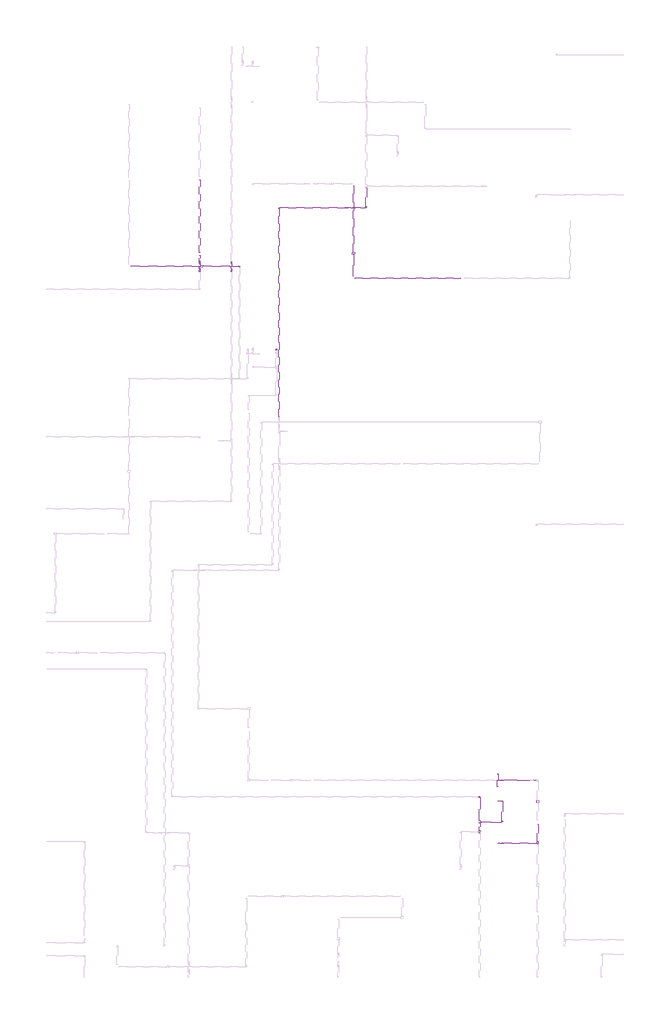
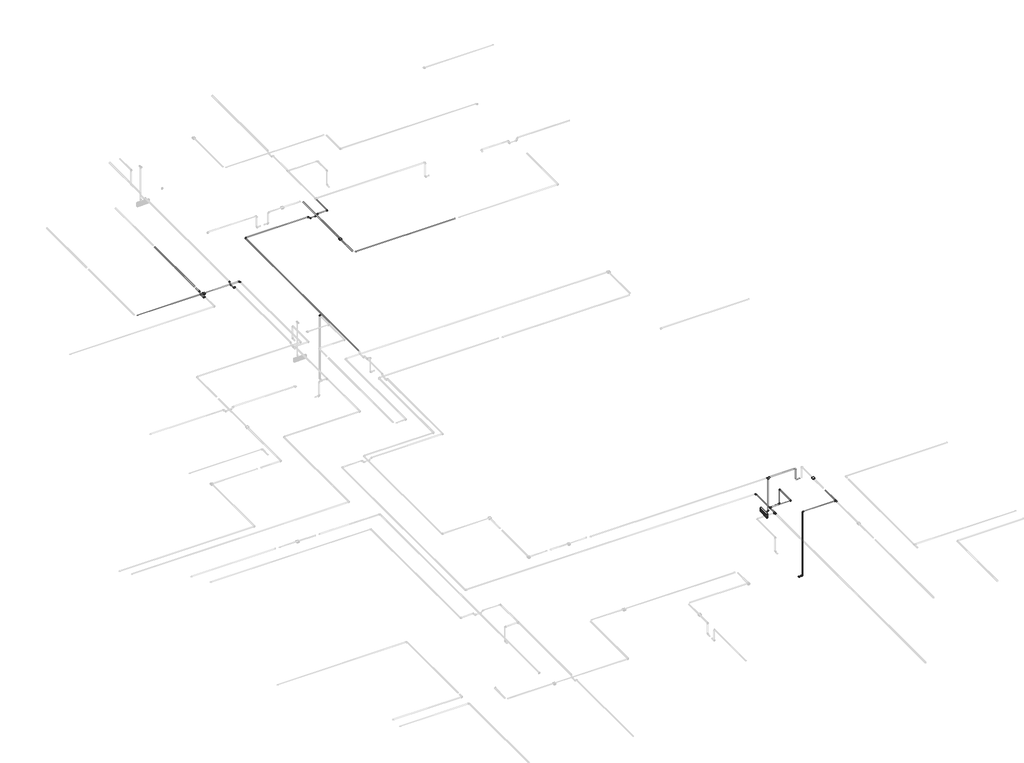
# One storey, part 35 of 40: 35 cable carrier segments, 27 cable carrier fittings, 4 alarms.
"""IFC4 building model written with IfcOpenShell, lengths in millimetres."""

from ifc_helpers import new_model, si_unit, point, frame, frame_2d, origin, place, context, project, spatial, circle_curve, trimmed, segment, composite_curve, outline, extrude, transform, mapped, element, save
from ifc_brep_helpers import plane_surface, cylinder_surface, advanced_brep
from components import alarm_4b7e8fd8, alarm_a2247946, cable_carrier_fitting_69f1a801, cable_carrier_fitting_8122f9af, cable_carrier_fitting_8fd13dfc

model = new_model("IFC4")

# Units and contexts
model_context = context("Model", 3, world=origin())
ifc_project = project(units=[si_unit("LENGTHUNIT", "METRE", prefix="MILLI")], contexts=[model_context])

# Site, building, storey
site = spatial("IfcSite", under=ifc_project)
building = spatial("IfcBuilding", under=site)
storey = spatial("IfcBuildingStorey", under=building, Name="1 этаж", Elevation=0.0)

# Alarms
placement = place(None, origin())
alarm_shape = alarm_4b7e8fd8(model_context)
element("IfcAlarm", 1, ObjectType="RBZ_Оповещатель_Световой_Рубеж_ОПОП1-R3(грань) : ОПОП 1-R3 \"Выход\"", at=placement, inside=storey, context=model_context, shape_type="MappedRepresentation", body=[
    mapped(alarm_shape, transform((16457.6759979, 1945.4117677, 2300.0), x_axis=(0.0, -1.0, 0.0), y_axis=(0.0, 0.0, 1.0), z_axis=(-1.0, 0.0, 0.0))),
])
alarm_2_shape = alarm_a2247946(model_context)
element("IfcAlarm", 2, ObjectType="RBZ_ИзоляторШлейфа_Рубеж_ИЗ-1_прот.R3(плоскость) : ИЗ-1 прот.R3", at=placement, inside=storey, context=model_context, shape_type="MappedRepresentation", body=[
    mapped(alarm_2_shape, transform((9427.6759979, 14124.6370105, 3200.0496955), x_axis=(1.0, 0.0, 0.0), y_axis=(0.0, 1.0, 0.0), z_axis=(0.0, 0.0, 1.0))),
])
element("IfcAlarm", 3, ObjectType="RBZ_ИзоляторШлейфа_Рубеж_ИЗ-1_прот.R3(плоскость) : ИЗ-1 прот.R3", at=placement, inside=storey, context=model_context, shape_type="MappedRepresentation", body=[
    mapped(alarm_2_shape, transform((13027.6759979, 14434.6370105, 3200.05), x_axis=(1.0, 0.0, 0.0), y_axis=(0.0, 1.0, 0.0), z_axis=(0.0, 0.0, 1.0))),
])
element("IfcAlarm", 4, ObjectType="RBZ_ИзоляторШлейфа_Рубеж_ИЗ-1_прот.R3(плоскость) : ИЗ-1 прот.R3", at=placement, inside=storey, context=model_context, shape_type="MappedRepresentation", body=[
    mapped(alarm_2_shape, transform((17393.7902226, 1444.6370105, 3200.7813446), x_axis=(1.0, 0.0, 0.0), y_axis=(0.0, 1.0, 0.0), z_axis=(0.0, 0.0, 1.0))),
])

# Cable carrier fittings
cable_carrier_fitting_shape = cable_carrier_fitting_69f1a801(model_context)
element("IfcCableCarrierFitting", 5, ObjectType="ADSK_Поворот_Минимальный размер : Неспецифицируемый", at=placement, inside=storey, context=model_context, shape_type="MappedRepresentation", body=[
    mapped(cable_carrier_fitting_shape, transform((10327.6759979, 14124.6370105, 3189.2996955), x_axis=(0.0, 1.0, 0.0), y_axis=(-1.0, 0.0, 0.0), z_axis=(0.0, 0.0, 1.0))),
])
element("IfcCableCarrierFitting", 6, ObjectType="ADSK_Поворот_Минимальный размер : Неспецифицируемый", at=placement, inside=storey, context=model_context, shape_type="MappedRepresentation", body=[
    mapped(cable_carrier_fitting_shape, transform((16022.6759979, 1554.6370105, 3180.0), x_axis=(0.0, 1.0, 0.0), y_axis=(-1.0, 0.0, 0.0), z_axis=(0.0, 0.0, 1.0))),
])
element("IfcCableCarrierFitting", 7, ObjectType="ADSK_Поворот_Минимальный размер : Неспецифицируемый", at=placement, inside=storey, context=model_context, shape_type="MappedRepresentation", body=[
    mapped(cable_carrier_fitting_shape, transform((16554.8758035, 1454.6370105, 2797.4861504), x_axis=(1.0, 0.0, 0.0), y_axis=(0.0, 0.0, 1.0), z_axis=(0.0, -1.0, 0.0))),
])
element("IfcCableCarrierFitting", 8, ObjectType="ADSK_Поворот_Минимальный размер : Неспецифицируемый", at=placement, inside=storey, context=model_context, shape_type="MappedRepresentation", body=[
    mapped(cable_carrier_fitting_shape, transform((16554.8758035, 1454.6370105, 3180.0), x_axis=(0.0, 0.0, 1.0), y_axis=(0.0, -1.0, 0.0), z_axis=(1.0, 0.0, 0.0))),
])
element("IfcCableCarrierFitting", 9, ObjectType="ADSK_Поворот_Минимальный размер : Неспецифицируемый", at=placement, inside=storey, context=model_context, shape_type="MappedRepresentation", body=[
    mapped(cable_carrier_fitting_shape, transform((16554.8758035, 954.6370105, 3180.0), x_axis=(1.0, 0.0, 0.0), y_axis=(0.0, 1.0, 0.0), z_axis=(0.0, 0.0, 1.0))),
])
element("IfcCableCarrierFitting", 10, ObjectType="ADSK_Поворот_Минимальный размер : Неспецифицируемый", at=placement, inside=storey, context=model_context, shape_type="MappedRepresentation", body=[
    mapped(cable_carrier_fitting_shape, transform((11197.6759979, 12161.8368161, 3189.3), x_axis=(0.0, 0.0, 1.0), y_axis=(0.0, -1.0, 0.0), z_axis=(1.0, 0.0, 0.0))),
])
element("IfcCableCarrierFitting", 11, ObjectType="ADSK_Поворот_Минимальный размер : Неспецифицируемый", at=placement, inside=storey, context=model_context, shape_type="MappedRepresentation", body=[
    mapped(cable_carrier_fitting_shape, transform((16554.8758035, 1945.4117677, 2300.0), x_axis=(1.0, 0.0, 0.0), y_axis=(0.0, 0.0, 1.0), z_axis=(0.0, -1.0, 0.0))),
])
element("IfcCableCarrierFitting", 12, ObjectType="ADSK_Поворот_Минимальный размер : Неспецифицируемый", at=placement, inside=storey, context=model_context, shape_type="MappedRepresentation", body=[
    mapped(cable_carrier_fitting_shape, transform((16554.8758035, 454.6370105, 1500.0), x_axis=(1.0, 0.0, 0.0), y_axis=(0.0, 0.0, 1.0), z_axis=(0.0, -1.0, 0.0))),
])
element("IfcCableCarrierFitting", 13, ObjectType="ADSK_Поворот_Минимальный размер : Неспецифицируемый", at=placement, inside=storey, context=model_context, shape_type="MappedRepresentation", body=[
    mapped(cable_carrier_fitting_shape, transform((16554.8758035, 454.6370182, 3190.0009194), x_axis=(0.0, 0.0, 1.0), y_axis=(1.0, 0.0, 0.0), z_axis=(0.0, 1.0, 0.0))),
])
element("IfcCableCarrierFitting", 14, ObjectType="ADSK_Поворот_Минимальный размер : Неспецифицируемый", at=placement, inside=storey, context=model_context, shape_type="MappedRepresentation", body=[
    mapped(cable_carrier_fitting_shape, transform((11261.1110267, 15511.3898495, 3180.0), x_axis=(-1.0, 0.0, 0.0), y_axis=(0.0, -1.0, 0.0), z_axis=(0.0, 0.0, 1.0))),
])
element("IfcCableCarrierFitting", 15, ObjectType="ADSK_Поворот_Минимальный размер : Неспецифицируемый", at=placement, inside=storey, context=model_context, shape_type="MappedRepresentation", body=[
    mapped(cable_carrier_fitting_shape, transform((13329.9487472, 15511.3898495, 3180.0), x_axis=(1.0, 0.0, 0.0), y_axis=(0.0, 1.0, 0.0), z_axis=(0.0, 0.0, 1.0))),
])
cable_carrier_fitting_2_shape = cable_carrier_fitting_8122f9af(model_context)
element("IfcCableCarrierFitting", 16, ObjectType="ADSK_Поворот_Минимальный размер : Неспецифицируемый", at=placement, inside=storey, context=model_context, shape_type="MappedRepresentation", body=[
    mapped(cable_carrier_fitting_2_shape, transform((10136.5137184, 14058.0647393, 3130.0), x_axis=(0.0, 0.7071067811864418, -0.7071067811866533), y_axis=(0.0, 0.7071067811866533, 0.7071067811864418), z_axis=(1.0, 0.0, 0.0))),
])
element("IfcCableCarrierFitting", 17, ObjectType="ADSK_Поворот_Минимальный размер : Неспецифицируемый", at=placement, inside=storey, context=model_context, shape_type="MappedRepresentation", body=[
    mapped(cable_carrier_fitting_2_shape, transform((10136.5137184, 14191.2092818, 3130.0), x_axis=(0.0, 1.0, 0.0), y_axis=(0.0, 0.0, 1.0), z_axis=(1.0, 0.0, 0.0))),
])
element("IfcCableCarrierFitting", 18, ObjectType="ADSK_Поворот_Минимальный размер : Неспецифицируемый", at=placement, inside=storey, context=model_context, shape_type="MappedRepresentation", body=[
    mapped(cable_carrier_fitting_2_shape, transform((10136.5137184, 14241.2092818, 3180.0), x_axis=(0.0, 0.7071067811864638, 0.7071067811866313), y_axis=(0.0, 0.7071067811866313, -0.7071067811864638), z_axis=(-1.0, 0.0, 0.0))),
])
element("IfcCableCarrierFitting", 19, ObjectType="ADSK_Поворот_Минимальный размер : Неспецифицируемый", at=placement, inside=storey, context=model_context, shape_type="MappedRepresentation", body=[
    mapped(cable_carrier_fitting_2_shape, transform((12894.3269109, 15511.3898495, 3130.0), x_axis=(-1.0, 0.0, 0.0), y_axis=(0.0, 0.0, 1.0), z_axis=(0.0, 1.0, 0.0))),
])
element("IfcCableCarrierFitting", 20, ObjectType="ADSK_Поворот_Минимальный размер : Неспецифицируемый", at=placement, inside=storey, context=model_context, shape_type="MappedRepresentation", body=[
    mapped(cable_carrier_fitting_2_shape, transform((12844.3269109, 15511.3898495, 3180.0), x_axis=(-0.7071067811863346, 0.0, 0.7071067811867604), y_axis=(-0.7071067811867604, 0.0, -0.7071067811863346), z_axis=(0.0, -1.0, 0.0))),
])
element("IfcCableCarrierFitting", 21, ObjectType="ADSK_Поворот_Минимальный размер : Неспецифицируемый", at=placement, inside=storey, context=model_context, shape_type="MappedRepresentation", body=[
    mapped(cable_carrier_fitting_2_shape, transform((9382.6759979, 14058.0647393, 3137.0), x_axis=(0.0, 0.7071067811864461, -0.7071067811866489), y_axis=(0.0, 0.7071067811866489, 0.7071067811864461), z_axis=(1.0, 0.0, 0.0))),
])
element("IfcCableCarrierFitting", 22, ObjectType="ADSK_Поворот_Минимальный размер : Неспецифицируемый", at=placement, inside=storey, context=model_context, shape_type="MappedRepresentation", body=[
    mapped(cable_carrier_fitting_2_shape, transform((9382.6759979, 14191.2092818, 3137.0), x_axis=(0.0, 1.0, 0.0), y_axis=(0.0, 0.0, 1.0), z_axis=(1.0, 0.0, 0.0))),
])
element("IfcCableCarrierFitting", 23, ObjectType="ADSK_Поворот_Минимальный размер : Неспецифицируемый", at=placement, inside=storey, context=model_context, shape_type="MappedRepresentation", body=[
    mapped(cable_carrier_fitting_2_shape, transform((9382.6759979, 14241.2092818, 3187.0), x_axis=(0.0, 0.7071067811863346, 0.7071067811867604), y_axis=(0.0, 0.7071067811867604, -0.7071067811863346), z_axis=(-1.0, 0.0, 0.0))),
])
element("IfcCableCarrierFitting", 24, ObjectType="ADSK_Поворот_Минимальный размер : Неспецифицируемый", at=placement, inside=storey, context=model_context, shape_type="MappedRepresentation", body=[
    mapped(cable_carrier_fitting_2_shape, transform((9382.6759979, 14008.0647393, 3187.0), x_axis=(0.0, -0.7071067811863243, 0.7071067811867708), y_axis=(0.0, -0.7071067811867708, -0.7071067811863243), z_axis=(1.0, 0.0, 0.0))),
])
element("IfcCableCarrierFitting", 25, ObjectType="ADSK_Поворот_Минимальный размер : Неспецифицируемый", at=placement, inside=storey, context=model_context, shape_type="MappedRepresentation", body=[
    mapped(cable_carrier_fitting_2_shape, transform((10136.5137184, 14008.0647393, 3180.0), x_axis=(0.0, -0.7071067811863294, 0.7071067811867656), y_axis=(0.0, -0.7071067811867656, -0.7071067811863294), z_axis=(1.0, 0.0, 0.0))),
])
element("IfcCableCarrierFitting", 26, ObjectType="ADSK_Поворот_Минимальный размер : Неспецифицируемый", at=placement, inside=storey, context=model_context, shape_type="MappedRepresentation", body=[
    mapped(cable_carrier_fitting_2_shape, transform((13027.4714534, 15511.3898495, 3130.0), x_axis=(1.0, 0.0, 0.0), y_axis=(0.0, 0.0, 1.0), z_axis=(0.0, -1.0, 0.0))),
])
element("IfcCableCarrierFitting", 27, ObjectType="ADSK_Поворот_Минимальный размер : Неспецифицируемый", at=placement, inside=storey, context=model_context, shape_type="MappedRepresentation", body=[
    mapped(cable_carrier_fitting_2_shape, transform((13077.4714534, 15511.3898495, 3180.0), x_axis=(0.7071067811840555, 0.0, 0.7071067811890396), y_axis=(0.7071067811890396, 0.0, -0.7071067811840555), z_axis=(0.0, 1.0, 0.0))),
])
cable_carrier_fitting_3_shape = cable_carrier_fitting_8fd13dfc(model_context)
element("IfcCableCarrierFitting", 28, ObjectType="ADSK_Тройник : ПВХ", at=placement, inside=storey, context=model_context, shape_type="MappedRepresentation", body=[
    mapped(cable_carrier_fitting_3_shape, transform((17393.7902226, 454.6370105, 3190.0154323), x_axis=(0.0, -0.9999998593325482, -0.0005304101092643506), y_axis=(0.9999998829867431, -2.5659270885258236e-07, 0.0004837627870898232), z_axis=(-0.00048376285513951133, -0.0005304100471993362, 0.9999997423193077))),
])
element("IfcCableCarrierFitting", 29, ObjectType="ADSK_Тройник : ПВХ", at=placement, inside=storey, context=model_context, shape_type="MappedRepresentation", body=[
    mapped(cable_carrier_fitting_3_shape, transform((16022.6759979, 724.6370105, 3180.0), x_axis=(0.0, -1.0, 0.0), y_axis=(1.0, 0.0, 0.0), z_axis=(0.0, 0.0, 1.0))),
])
element("IfcCableCarrierFitting", 30, ObjectType="ADSK_Тройник : ПВХ", at=placement, inside=storey, context=model_context, shape_type="MappedRepresentation", body=[
    mapped(cable_carrier_fitting_3_shape, transform((16022.6759979, 954.6370105, 3180.0), x_axis=(0.0, 1.0, 0.0), y_axis=(-1.0, 0.0, 0.0), z_axis=(0.0, 0.0, 1.0))),
])
element("IfcCableCarrierFitting", 31, ObjectType="ADSK_Тройник : ПВХ", at=placement, inside=storey, context=model_context, shape_type="MappedRepresentation", body=[
    mapped(cable_carrier_fitting_3_shape, transform((16554.8758035, 1945.4117677, 3189.3), x_axis=(-1.0, 0.0, 0.0), y_axis=(0.0, 0.0, 1.0), z_axis=(0.0, 1.0, 0.0))),
])

# Cable carrier segments
element("IfcCableCarrierSegment", 32, ObjectType="Гофрированная труба", at=placement, inside=storey, context=model_context, shape_type="SweptSolid", body=[
    extrude(outline(composite_curve([segment(trimmed(circle_curve(frame_2d((3190.0313446, 17393.7902226)), 10.0), [point((3190.0361822, 17403.7902215))], [point((3200.0313434, 17393.785385))], False, "CARTESIAN"), True, "CONTINUOUS"), segment(trimmed(circle_curve(frame_2d((3190.0313446, 17393.7902226)), 10.0), [point((3200.0313434, 17393.785385))], [point((3190.026507, 17383.7902238))], False, "CARTESIAN"), True, "CONTINUOUS"), segment(trimmed(circle_curve(frame_2d((3190.0313446, 17393.7902226)), 10.0), [point((3190.026507, 17383.7902238))], [point((3180.0313458, 17393.7950603))], False, "CARTESIAN"), True, "CONTINUOUS"), segment(trimmed(circle_curve(frame_2d((3190.0313446, 17393.7902226)), 10.0), [point((3180.0313458, 17393.7950603))], [point((3190.0361822, 17403.7902215))], False, "CARTESIAN"), True, "CONTINUOUS")], self_intersect=False)), frame((0.0, 484.6370063, 0.0), z_axis=(0.0, 1.0, 0.0), x_axis=(0.0, 0.0, 1.0)), (0.0, 0.0, 1.0), 420.0000042),
])
element("IfcCableCarrierSegment", 33, ObjectType="Гофрированная труба", at=placement, inside=storey, context=model_context, shape_type="SweptSolid", body=[
    extrude(outline(composite_curve([segment(trimmed(circle_curve(frame_2d((3189.3, 13027.6759979)), 10.0), [point((3189.3, 13037.6759979))], [point((3199.3, 13027.6759979))], False, "CARTESIAN"), True, "CONTINUOUS"), segment(trimmed(circle_curve(frame_2d((3189.3, 13027.6759979)), 10.0), [point((3199.3, 13027.6759979))], [point((3189.3, 13017.6759979))], False, "CARTESIAN"), True, "CONTINUOUS"), segment(trimmed(circle_curve(frame_2d((3189.3, 13027.6759979)), 10.0), [point((3189.3, 13017.6759979))], [point((3179.3, 13027.6759979))], False, "CARTESIAN"), True, "CONTINUOUS"), segment(trimmed(circle_curve(frame_2d((3189.3, 13027.6759979)), 10.0), [point((3179.3, 13027.6759979))], [point((3189.3, 13037.6759979))], False, "CARTESIAN"), True, "CONTINUOUS")], self_intersect=False)), frame((0.0, 13891.1370105, 0.0), z_axis=(0.0, 1.0, 0.0), x_axis=(0.0, 0.0, 1.0)), (0.0, 0.0, 1.0), 517.5),
])
element("IfcCableCarrierSegment", 34, ObjectType="Гофрированная труба", at=placement, inside=storey, context=model_context, shape_type="SweptSolid", body=[
    extrude(outline(composite_curve([segment(trimmed(circle_curve(frame_2d((14124.6370105, 3189.2996955)), 10.0), [point((14134.6370105, 3189.2996955))], [point((14124.6370105, 3179.2996955))], False, "CARTESIAN"), True, "CONTINUOUS"), segment(trimmed(circle_curve(frame_2d((14124.6370105, 3189.2996955)), 10.0), [point((14124.6370105, 3179.2996955))], [point((14114.6370105, 3189.2996955))], False, "CARTESIAN"), True, "CONTINUOUS"), segment(trimmed(circle_curve(frame_2d((14124.6370105, 3189.2996955)), 10.0), [point((14114.6370105, 3189.2996955))], [point((14124.6370105, 3199.2996955))], False, "CARTESIAN"), True, "CONTINUOUS"), segment(trimmed(circle_curve(frame_2d((14124.6370105, 3189.2996955)), 10.0), [point((14124.6370105, 3199.2996955))], [point((14134.6370105, 3189.2996955))], False, "CARTESIAN"), True, "CONTINUOUS")], self_intersect=False)), frame((7754.1757766, 0.0, 0.0), z_axis=(1.0, 0.0, 0.0), x_axis=(0.0, 1.0, 0.0)), (0.0, 0.0, 1.0), 1647.5002213),
])
element("IfcCableCarrierSegment", 35, ObjectType="Гофрированная труба", at=placement, inside=storey, context=model_context, shape_type="SweptSolid", body=[
    extrude(outline(composite_curve([segment(trimmed(circle_curve(frame_2d((14124.6370105, 3189.2996955)), 10.0), [point((14114.6370105, 3189.2996955))], [point((14124.6370105, 3199.2996955))], False, "CARTESIAN"), True, "CONTINUOUS"), segment(trimmed(circle_curve(frame_2d((14124.6370105, 3189.2996955)), 10.0), [point((14124.6370105, 3199.2996955))], [point((14134.6370105, 3189.2996955))], False, "CARTESIAN"), True, "CONTINUOUS"), segment(trimmed(circle_curve(frame_2d((14124.6370105, 3189.2996955)), 10.0), [point((14134.6370105, 3189.2996955))], [point((14124.6370105, 3179.2996955))], False, "CARTESIAN"), True, "CONTINUOUS"), segment(trimmed(circle_curve(frame_2d((14124.6370105, 3189.2996955)), 10.0), [point((14124.6370105, 3179.2996955))], [point((14114.6370105, 3189.2996955))], False, "CARTESIAN"), True, "CONTINUOUS")], self_intersect=False)), frame((9453.6759979, 0.0, 0.0), z_axis=(1.0, 0.0, 0.0), x_axis=(0.0, 1.0, 0.0)), (0.0, 0.0, 1.0), 853.0),
])
element("IfcCableCarrierSegment", 36, ObjectType="Гофрированная труба", at=placement, inside=storey, context=model_context, shape_type="SweptSolid", body=[
    extrude(outline(composite_curve([segment(trimmed(circle_curve(frame_2d((1945.4117677, 2891.5753772)), 10.0), [point((1955.4117677, 2891.5753772))], [point((1945.4117677, 2881.5753772))], False, "CARTESIAN"), True, "CONTINUOUS"), segment(trimmed(circle_curve(frame_2d((1945.4117677, 2891.5753772)), 10.0), [point((1945.4117677, 2881.5753772))], [point((1935.4117677, 2891.5753772))], False, "CARTESIAN"), True, "CONTINUOUS"), segment(trimmed(circle_curve(frame_2d((1945.4117677, 2891.5753772)), 10.0), [point((1935.4117677, 2891.5753772))], [point((1945.4117677, 2901.5753772))], False, "CARTESIAN"), True, "CONTINUOUS"), segment(trimmed(circle_curve(frame_2d((1945.4117677, 2891.5753772)), 10.0), [point((1945.4117677, 2901.5753772))], [point((1955.4117677, 2891.5753772))], False, "CARTESIAN"), True, "CONTINUOUS")], self_intersect=False)), frame((17271.090417, 0.0, 0.0), z_axis=(1.0, 0.0, 0.0), x_axis=(0.0, 1.0, 0.0)), (0.0, 0.0, 1.0), 76.1998056),
])
element("IfcCableCarrierSegment", 37, ObjectType="Гофрированная труба", at=placement, inside=storey, context=model_context, shape_type="SweptSolid", body=[
    extrude(outline(composite_curve([segment(trimmed(circle_curve(frame_2d((17250.090417, 1945.4117677)), 10.0), [point((17240.090417, 1945.4117677))], [point((17250.090417, 1955.4117677))], False, "CARTESIAN"), True, "CONTINUOUS"), segment(trimmed(circle_curve(frame_2d((17250.090417, 1945.4117677)), 10.0), [point((17250.090417, 1955.4117677))], [point((17260.090417, 1945.4117677))], False, "CARTESIAN"), True, "CONTINUOUS"), segment(trimmed(circle_curve(frame_2d((17250.090417, 1945.4117677)), 10.0), [point((17260.090417, 1945.4117677))], [point((17250.090417, 1935.4117677))], False, "CARTESIAN"), True, "CONTINUOUS"), segment(trimmed(circle_curve(frame_2d((17250.090417, 1945.4117677)), 10.0), [point((17250.090417, 1935.4117677))], [point((17240.090417, 1945.4117677))], False, "CARTESIAN"), True, "CONTINUOUS")], self_intersect=False)), frame((0.0, 0.0, 2912.5753772), z_axis=(0.0, 0.0, 1.0), x_axis=(1.0, 0.0, 0.0)), (0.0, 0.0, 1.0), 255.7246228),
])
element("IfcCableCarrierSegment", 38, ObjectType="Гофрированная труба", at=placement, inside=storey, context=model_context, shape_type="SweptSolid", body=[
    extrude(outline(composite_curve([segment(trimmed(circle_curve(frame_2d((3189.3, 13027.6759979)), 10.0), [point((3189.3, 13017.6759979))], [point((3179.3, 13027.6759979))], False, "CARTESIAN"), True, "CONTINUOUS"), segment(trimmed(circle_curve(frame_2d((3189.3, 13027.6759979)), 10.0), [point((3179.3, 13027.6759979))], [point((3189.3, 13037.6759979))], False, "CARTESIAN"), True, "CONTINUOUS"), segment(trimmed(circle_curve(frame_2d((3189.3, 13027.6759979)), 10.0), [point((3189.3, 13037.6759979))], [point((3199.3, 13027.6759979))], False, "CARTESIAN"), True, "CONTINUOUS"), segment(trimmed(circle_curve(frame_2d((3189.3, 13027.6759979)), 10.0), [point((3199.3, 13027.6759979))], [point((3189.3, 13017.6759979))], False, "CARTESIAN"), True, "CONTINUOUS")], self_intersect=False)), frame((0.0, 14460.6370105, 0.0), z_axis=(0.0, 1.0, 0.0), x_axis=(0.0, 0.0, 1.0)), (0.0, 0.0, 1.0), 1577.5),
])
element("IfcCableCarrierSegment", 39, ObjectType="Гофрированная труба", at=placement, inside=storey, context=model_context, shape_type="SweptSolid", body=[
    extrude(outline(composite_curve([segment(trimmed(circle_curve(frame_2d((0.0, 10.0)), 10.0), [point((-10.0, 10.0))], [point((0.0, 20.0))], False, "CARTESIAN"), True, "CONTINUOUS"), segment(trimmed(circle_curve(frame_2d((0.0, 10.0)), 10.0), [point((0.0, 20.0))], [point((10.0, 10.0))], False, "CARTESIAN"), True, "CONTINUOUS"), segment(trimmed(circle_curve(frame_2d((0.0, 10.0)), 10.0), [point((10.0, 10.0))], [point((0.0, 0.0))], False, "CARTESIAN"), True, "CONTINUOUS"), segment(trimmed(circle_curve(frame_2d((0.0, 10.0)), 10.0), [point((0.0, 0.0))], [point((-10.0, 10.0))], False, "CARTESIAN"), True, "CONTINUOUS")], self_intersect=False)), frame((15570.9300906, 13844.6370105, 3179.275652), z_axis=(-0.9999999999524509, 0.0, 9.751842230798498e-06), x_axis=(0.0, -1.0, 0.0)), (0.0, 0.0, 1.0), 2496.7541904),
])
element("IfcCableCarrierSegment", 40, ObjectType="Гофрированная труба", at=placement, inside=storey, context=model_context, shape_type="SweptSolid", body=[
    extrude(outline(composite_curve([segment(trimmed(circle_curve(frame_2d((3187.0, 9382.6759979)), 10.0), [point((3187.0, 9392.6759979))], [point((3197.0, 9382.6759979))], False, "CARTESIAN"), True, "CONTINUOUS"), segment(trimmed(circle_curve(frame_2d((3187.0, 9382.6759979)), 10.0), [point((3197.0, 9382.6759979))], [point((3187.0, 9372.6759979))], False, "CARTESIAN"), True, "CONTINUOUS"), segment(trimmed(circle_curve(frame_2d((3187.0, 9382.6759979)), 10.0), [point((3187.0, 9372.6759979))], [point((3177.0, 9382.6759979))], False, "CARTESIAN"), True, "CONTINUOUS"), segment(trimmed(circle_curve(frame_2d((3187.0, 9382.6759979)), 10.0), [point((3177.0, 9382.6759979))], [point((3187.0, 9392.6759979))], False, "CARTESIAN"), True, "CONTINUOUS")], self_intersect=False)), frame((0.0, 14447.0987933, 0.0), z_axis=(0.0, 1.0, 0.0), x_axis=(0.0, 0.0, 1.0)), (0.0, 0.0, 1.0), 1735.0382172),
])
element("IfcCableCarrierSegment", 41, ObjectType="Гофрированная труба", at=placement, inside=storey, context=model_context, shape_type="SweptSolid", body=[
    extrude(outline(composite_curve([segment(trimmed(circle_curve(frame_2d((0.0, 10.0)), 10.0), [point((0.0, 20.0))], [point((10.0, 10.0))], False, "CARTESIAN"), True, "CONTINUOUS"), segment(trimmed(circle_curve(frame_2d((0.0, 10.0)), 10.0), [point((10.0, 10.0))], [point((0.0, 0.0))], False, "CARTESIAN"), True, "CONTINUOUS"), segment(trimmed(circle_curve(frame_2d((0.0, 10.0)), 10.0), [point((0.0, 0.0))], [point((-10.0, 10.0))], False, "CARTESIAN"), True, "CONTINUOUS"), segment(trimmed(circle_curve(frame_2d((0.0, 10.0)), 10.0), [point((-10.0, 10.0))], [point((0.0, 20.0))], False, "CARTESIAN"), True, "CONTINUOUS")], self_intersect=False)), frame((13319.9487472, 15532.3898495, 3180.0), z_axis=(1.8408741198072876e-12, 1.0, 0.0), x_axis=(0.0, 0.0, 1.0)), (0.0, 0.0, 1.0), 462.247161),
])
element("IfcCableCarrierSegment", 42, ObjectType="Гофрированная труба", at=placement, inside=storey, context=model_context, shape_type="SweptSolid", body=[
    extrude(outline(composite_curve([segment(trimmed(circle_curve(frame_2d((15511.3898495, 3130.0)), 10.0), [point((15521.3898495, 3130.0))], [point((15511.3898495, 3120.0))], False, "CARTESIAN"), True, "CONTINUOUS"), segment(trimmed(circle_curve(frame_2d((15511.3898495, 3130.0)), 10.0), [point((15511.3898495, 3120.0))], [point((15501.3898495, 3130.0))], False, "CARTESIAN"), True, "CONTINUOUS"), segment(trimmed(circle_curve(frame_2d((15511.3898495, 3130.0)), 10.0), [point((15501.3898495, 3130.0))], [point((15511.3898495, 3140.0))], False, "CARTESIAN"), True, "CONTINUOUS"), segment(trimmed(circle_curve(frame_2d((15511.3898495, 3130.0)), 10.0), [point((15511.3898495, 3140.0))], [point((15521.3898495, 3130.0))], False, "CARTESIAN"), True, "CONTINUOUS")], self_intersect=False)), frame((12903.6111821, 0.0, 0.0), z_axis=(1.0, 0.0, 0.0), x_axis=(0.0, 1.0, 0.0)), (0.0, 0.0, 1.0), 114.576),
])
element("IfcCableCarrierSegment", 43, ObjectType="Гофрированная труба", at=placement, inside=storey, context=model_context, shape_type="SweptSolid", body=[
    extrude(outline(composite_curve([segment(trimmed(circle_curve(frame_2d((3180.0, 16022.6759979)), 10.0), [point((3180.0, 16012.6759979))], [point((3170.0, 16022.6759979))], False, "CARTESIAN"), True, "CONTINUOUS"), segment(trimmed(circle_curve(frame_2d((3180.0, 16022.6759979)), 10.0), [point((3170.0, 16022.6759979))], [point((3180.0, 16032.6759979))], False, "CARTESIAN"), True, "CONTINUOUS"), segment(trimmed(circle_curve(frame_2d((3180.0, 16022.6759979)), 10.0), [point((3180.0, 16032.6759979))], [point((3190.0, 16022.6759979))], False, "CARTESIAN"), True, "CONTINUOUS"), segment(trimmed(circle_curve(frame_2d((3180.0, 16022.6759979)), 10.0), [point((3190.0, 16022.6759979))], [point((3180.0, 16012.6759979))], False, "CARTESIAN"), True, "CONTINUOUS")], self_intersect=False)), frame((0.0, 754.6370105, 0.0), z_axis=(0.0, 1.0, 0.0), x_axis=(0.0, 0.0, 1.0)), (0.0, 0.0, 1.0), 170.0),
])
element("IfcCableCarrierSegment", 44, ObjectType="Гофрированная труба", at=placement, inside=storey, context=model_context, shape_type="SweptSolid", body=[
    extrude(outline(composite_curve([segment(trimmed(circle_curve(frame_2d((3180.0, 16554.8758035)), 10.0), [point((3180.0, 16544.8758035))], [point((3170.0, 16554.8758035))], False, "CARTESIAN"), True, "CONTINUOUS"), segment(trimmed(circle_curve(frame_2d((3180.0, 16554.8758035)), 10.0), [point((3170.0, 16554.8758035))], [point((3180.0, 16564.8758035))], False, "CARTESIAN"), True, "CONTINUOUS"), segment(trimmed(circle_curve(frame_2d((3180.0, 16554.8758035)), 10.0), [point((3180.0, 16564.8758035))], [point((3190.0, 16554.8758035))], False, "CARTESIAN"), True, "CONTINUOUS"), segment(trimmed(circle_curve(frame_2d((3180.0, 16554.8758035)), 10.0), [point((3190.0, 16554.8758035))], [point((3180.0, 16544.8758035))], False, "CARTESIAN"), True, "CONTINUOUS")], self_intersect=False)), frame((0.0, 975.6370105, 0.0), z_axis=(0.0, 1.0, 0.0), x_axis=(0.0, 0.0, 1.0)), (0.0, 0.0, 1.0), 458.0),
])
element("IfcCableCarrierSegment", 45, ObjectType="Гофрированная труба", at=placement, inside=storey, context=model_context, shape_type="SweptSolid", body=[
    extrude(outline(composite_curve([segment(trimmed(circle_curve(frame_2d((1454.6370105, 2797.4861504)), 10.0), [point((1444.6370105, 2797.4861504))], [point((1454.6370105, 2807.4861504))], False, "CARTESIAN"), True, "CONTINUOUS"), segment(trimmed(circle_curve(frame_2d((1454.6370105, 2797.4861504)), 10.0), [point((1454.6370105, 2807.4861504))], [point((1464.6370105, 2797.4861504))], False, "CARTESIAN"), True, "CONTINUOUS"), segment(trimmed(circle_curve(frame_2d((1454.6370105, 2797.4861504)), 10.0), [point((1464.6370105, 2797.4861504))], [point((1454.6370105, 2787.4861504))], False, "CARTESIAN"), True, "CONTINUOUS"), segment(trimmed(circle_curve(frame_2d((1454.6370105, 2797.4861504)), 10.0), [point((1454.6370105, 2787.4861504))], [point((1444.6370105, 2797.4861504))], False, "CARTESIAN"), True, "CONTINUOUS")], self_intersect=False)), frame((16457.6759979, 0.0, 0.0), z_axis=(1.0, 0.0, 0.0), x_axis=(0.0, 1.0, 0.0)), (0.0, 0.0, 1.0), 76.1998056),
])
element("IfcCableCarrierSegment", 46, ObjectType="Гофрированная труба", at=placement, inside=storey, context=model_context, shape_type="SweptSolid", body=[
    extrude(outline(composite_curve([segment(trimmed(circle_curve(frame_2d((16554.8758035, 1454.6370105)), 10.0), [point((16544.8758035, 1454.6370105))], [point((16554.8758035, 1464.6370105))], False, "CARTESIAN"), True, "CONTINUOUS"), segment(trimmed(circle_curve(frame_2d((16554.8758035, 1454.6370105)), 10.0), [point((16554.8758035, 1464.6370105))], [point((16564.8758035, 1454.6370105))], False, "CARTESIAN"), True, "CONTINUOUS"), segment(trimmed(circle_curve(frame_2d((16554.8758035, 1454.6370105)), 10.0), [point((16564.8758035, 1454.6370105))], [point((16554.8758035, 1444.6370105))], False, "CARTESIAN"), True, "CONTINUOUS"), segment(trimmed(circle_curve(frame_2d((16554.8758035, 1454.6370105)), 10.0), [point((16554.8758035, 1444.6370105))], [point((16544.8758035, 1454.6370105))], False, "CARTESIAN"), True, "CONTINUOUS")], self_intersect=False)), frame((0.0, 0.0, 2818.4861504), z_axis=(0.0, 0.0, 1.0), x_axis=(1.0, 0.0, 0.0)), (0.0, 0.0, 1.0), 340.5138496),
])
element("IfcCableCarrierSegment", 47, ObjectType="Гофрированная труба", at=placement, inside=storey, context=model_context, shape_type="SweptSolid", body=[
    extrude(outline(composite_curve([segment(trimmed(circle_curve(frame_2d((954.6370105, 3180.0)), 10.0), [point((964.6370105, 3180.0))], [point((954.6370105, 3170.0))], False, "CARTESIAN"), True, "CONTINUOUS"), segment(trimmed(circle_curve(frame_2d((954.6370105, 3180.0)), 10.0), [point((954.6370105, 3170.0))], [point((944.6370105, 3180.0))], False, "CARTESIAN"), True, "CONTINUOUS"), segment(trimmed(circle_curve(frame_2d((954.6370105, 3180.0)), 10.0), [point((944.6370105, 3180.0))], [point((954.6370105, 3190.0))], False, "CARTESIAN"), True, "CONTINUOUS"), segment(trimmed(circle_curve(frame_2d((954.6370105, 3180.0)), 10.0), [point((954.6370105, 3190.0))], [point((964.6370105, 3180.0))], False, "CARTESIAN"), True, "CONTINUOUS")], self_intersect=False)), frame((16052.6759979, 0.0, 0.0), z_axis=(1.0, 0.0, 0.0), x_axis=(0.0, 1.0, 0.0)), (0.0, 0.0, 1.0), 481.1998056),
])
element("IfcCableCarrierSegment", 48, ObjectType="Гофрированная труба", at=placement, inside=storey, context=model_context, shape_type="SweptSolid", body=[
    extrude(outline(composite_curve([segment(trimmed(circle_curve(frame_2d((3180.0, 16022.6759979)), 10.0), [point((3180.0, 16012.6759979))], [point((3170.0, 16022.6759979))], False, "CARTESIAN"), True, "CONTINUOUS"), segment(trimmed(circle_curve(frame_2d((3180.0, 16022.6759979)), 10.0), [point((3170.0, 16022.6759979))], [point((3180.0, 16032.6759979))], False, "CARTESIAN"), True, "CONTINUOUS"), segment(trimmed(circle_curve(frame_2d((3180.0, 16022.6759979)), 10.0), [point((3180.0, 16032.6759979))], [point((3190.0, 16022.6759979))], False, "CARTESIAN"), True, "CONTINUOUS"), segment(trimmed(circle_curve(frame_2d((3180.0, 16022.6759979)), 10.0), [point((3190.0, 16022.6759979))], [point((3180.0, 16012.6759979))], False, "CARTESIAN"), True, "CONTINUOUS")], self_intersect=False)), frame((0.0, 984.6370105, 0.0), z_axis=(0.0, 1.0, 0.0), x_axis=(0.0, 0.0, 1.0)), (0.0, 0.0, 1.0), 549.0),
])
element("IfcCableCarrierSegment", 49, ObjectType="Гофрированная труба", at=placement, inside=storey, context=model_context, shape_type="SweptSolid", body=[
    extrude(outline(composite_curve([segment(trimmed(circle_curve(frame_2d((3130.0, 10136.5137184)), 10.0), [point((3130.0, 10146.5137184))], [point((3140.0, 10136.5137184))], False, "CARTESIAN"), True, "CONTINUOUS"), segment(trimmed(circle_curve(frame_2d((3130.0, 10136.5137184)), 10.0), [point((3140.0, 10136.5137184))], [point((3130.0, 10126.5137184))], False, "CARTESIAN"), True, "CONTINUOUS"), segment(trimmed(circle_curve(frame_2d((3130.0, 10136.5137184)), 10.0), [point((3130.0, 10126.5137184))], [point((3120.0, 10136.5137184))], False, "CARTESIAN"), True, "CONTINUOUS"), segment(trimmed(circle_curve(frame_2d((3130.0, 10136.5137184)), 10.0), [point((3120.0, 10136.5137184))], [point((3130.0, 10146.5137184))], False, "CARTESIAN"), True, "CONTINUOUS")], self_intersect=False)), frame((0.0, 14067.3490105, 0.0), z_axis=(0.0, 1.0, 0.0), x_axis=(0.0, 0.0, 1.0)), (0.0, 0.0, 1.0), 114.576),
])
element("IfcCableCarrierSegment", 50, ObjectType="Гофрированная труба", at=placement, inside=storey, context=model_context, shape_type="SweptSolid", body=[
    extrude(outline(composite_curve([segment(trimmed(circle_curve(frame_2d((0.0, -10.0)), 10.0), [point((10.0, -10.0))], [point((0.0, -20.0))], False, "CARTESIAN"), True, "CONTINUOUS"), segment(trimmed(circle_curve(frame_2d((0.0, -10.0)), 10.0), [point((0.0, -20.0))], [point((-10.0, -10.0))], False, "CARTESIAN"), True, "CONTINUOUS"), segment(trimmed(circle_curve(frame_2d((0.0, -10.0)), 10.0), [point((-10.0, -10.0))], [point((0.0, 0.0))], False, "CARTESIAN"), True, "CONTINUOUS"), segment(trimmed(circle_curve(frame_2d((0.0, -10.0)), 10.0), [point((0.0, 0.0))], [point((10.0, -10.0))], False, "CARTESIAN"), True, "CONTINUOUS")], self_intersect=False)), frame((10136.5137184, 14058.5708359, 3143.636039), z_axis=(0.0, -0.7071067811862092, 0.707106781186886), x_axis=(1.0, 0.0, 0.0)), (0.0, 0.0, 1.0), 52.1421356),
])
element("IfcCableCarrierSegment", 51, ObjectType="Гофрированная труба", at=placement, inside=storey, context=model_context, shape_type="SweptSolid", body=[
    extrude(outline(composite_curve([segment(trimmed(circle_curve(frame_2d((0.0, 10.0)), 10.0), [point((10.0, 10.0))], [point((0.0, 0.0))], False, "CARTESIAN"), True, "CONTINUOUS"), segment(trimmed(circle_curve(frame_2d((0.0, 10.0)), 10.0), [point((0.0, 0.0))], [point((-10.0, 10.0))], False, "CARTESIAN"), True, "CONTINUOUS"), segment(trimmed(circle_curve(frame_2d((0.0, 10.0)), 10.0), [point((-10.0, 10.0))], [point((0.0, 20.0))], False, "CARTESIAN"), True, "CONTINUOUS"), segment(trimmed(circle_curve(frame_2d((0.0, 10.0)), 10.0), [point((0.0, 20.0))], [point((10.0, 10.0))], False, "CARTESIAN"), True, "CONTINUOUS")], self_intersect=False)), frame((10136.5137184, 14190.7031851, 3143.636039), z_axis=(0.0, 0.707106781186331, 0.7071067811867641), x_axis=(1.0, 0.0, 0.0)), (0.0, 0.0, 1.0), 52.1421356),
])
element("IfcCableCarrierSegment", 52, ObjectType="Гофрированная труба", at=placement, inside=storey, context=model_context, shape_type="SweptSolid", body=[
    extrude(outline(composite_curve([segment(trimmed(circle_curve(frame_2d((15511.3898495, 3180.0)), 10.0), [point((15521.3898495, 3180.0))], [point((15511.3898495, 3170.0))], False, "CARTESIAN"), True, "CONTINUOUS"), segment(trimmed(circle_curve(frame_2d((15511.3898495, 3180.0)), 10.0), [point((15511.3898495, 3170.0))], [point((15501.3898495, 3180.0))], False, "CARTESIAN"), True, "CONTINUOUS"), segment(trimmed(circle_curve(frame_2d((15511.3898495, 3180.0)), 10.0), [point((15501.3898495, 3180.0))], [point((15511.3898495, 3190.0))], False, "CARTESIAN"), True, "CONTINUOUS"), segment(trimmed(circle_curve(frame_2d((15511.3898495, 3180.0)), 10.0), [point((15511.3898495, 3190.0))], [point((15521.3898495, 3180.0))], False, "CARTESIAN"), True, "CONTINUOUS")], self_intersect=False)), frame((13086.7557246, 0.0, 0.0), z_axis=(1.0, 0.0, 0.0), x_axis=(0.0, 1.0, 0.0)), (0.0, 0.0, 1.0), 222.1930226),
])
element("IfcCableCarrierSegment", 53, ObjectType="Гофрированная труба", at=placement, inside=storey, context=model_context, shape_type="SweptSolid", body=[
    extrude(outline(composite_curve([segment(trimmed(circle_curve(frame_2d((0.0, 10.0)), 10.0), [point((0.0, 0.0))], [point((-10.0, 10.0))], False, "CARTESIAN"), True, "CONTINUOUS"), segment(trimmed(circle_curve(frame_2d((0.0, 10.0)), 10.0), [point((-10.0, 10.0))], [point((0.0, 20.0))], False, "CARTESIAN"), True, "CONTINUOUS"), segment(trimmed(circle_curve(frame_2d((0.0, 10.0)), 10.0), [point((0.0, 20.0))], [point((10.0000001, 10.0))], False, "CARTESIAN"), True, "CONTINUOUS"), segment(trimmed(circle_curve(frame_2d((0.0, 10.0)), 10.0), [point((10.0000001, 10.0))], [point((0.0, 0.0))], False, "CARTESIAN"), True, "CONTINUOUS")], self_intersect=False)), frame((13034.0364245, 15501.3898495, 3136.5649712), z_axis=(0.7071067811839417, 0.0, 0.7071067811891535), x_axis=(0.7071067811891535, 0.0, -0.7071067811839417)), (0.0, 0.0, 1.0), 52.1421356),
])
element("IfcCableCarrierSegment", 54, ObjectType="Гофрированная труба", at=placement, inside=storey, context=model_context, shape_type="SweptSolid", body=[
    extrude(outline(composite_curve([segment(trimmed(circle_curve(frame_2d((15511.3898495, 3180.0)), 10.0), [point((15521.3898495, 3180.0))], [point((15511.3898495, 3170.0))], False, "CARTESIAN"), True, "CONTINUOUS"), segment(trimmed(circle_curve(frame_2d((15511.3898495, 3180.0)), 10.0), [point((15511.3898495, 3170.0))], [point((15501.3898495, 3180.0))], False, "CARTESIAN"), True, "CONTINUOUS"), segment(trimmed(circle_curve(frame_2d((15511.3898495, 3180.0)), 10.0), [point((15501.3898495, 3180.0))], [point((15511.3898495, 3190.0))], False, "CARTESIAN"), True, "CONTINUOUS"), segment(trimmed(circle_curve(frame_2d((15511.3898495, 3180.0)), 10.0), [point((15511.3898495, 3190.0))], [point((15521.3898495, 3180.0))], False, "CARTESIAN"), True, "CONTINUOUS")], self_intersect=False)), frame((11282.1110267, 0.0, 0.0), z_axis=(1.0, 0.0, 0.0), x_axis=(0.0, 1.0, 0.0)), (0.0, 0.0, 1.0), 1552.9316129),
])
element("IfcCableCarrierSegment", 55, ObjectType="Гофрированная труба", at=placement, inside=storey, context=model_context, shape_type="SweptSolid", body=[
    extrude(outline(composite_curve([segment(trimmed(circle_curve(frame_2d((0.0, 10.0)), 10.0), [point((0.0, 20.0))], [point((10.0, 10.0))], False, "CARTESIAN"), True, "CONTINUOUS"), segment(trimmed(circle_curve(frame_2d((0.0, 10.0)), 10.0), [point((10.0, 10.0))], [point((0.0, 0.0))], False, "CARTESIAN"), True, "CONTINUOUS"), segment(trimmed(circle_curve(frame_2d((0.0, 10.0)), 10.0), [point((0.0, 0.0))], [point((-10.0000001, 10.0))], False, "CARTESIAN"), True, "CONTINUOUS"), segment(trimmed(circle_curve(frame_2d((0.0, 10.0)), 10.0), [point((-10.0000001, 10.0))], [point((0.0, 20.0))], False, "CARTESIAN"), True, "CONTINUOUS")], self_intersect=False)), frame((12887.7619397, 15501.3898495, 3136.5649712), z_axis=(-0.7071067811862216, 0.0, 0.7071067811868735), x_axis=(0.7071067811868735, 0.0, 0.7071067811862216)), (0.0, 0.0, 1.0), 52.1421356),
])
element("IfcCableCarrierSegment", 56, ObjectType="Гофрированная труба", at=placement, inside=storey, context=model_context, shape_type="SweptSolid", body=[
    extrude(outline(composite_curve([segment(trimmed(circle_curve(frame_2d((3180.0, 11261.1110267)), 10.0), [point((3180.0, 11271.1110267))], [point((3190.0, 11261.1110267))], False, "CARTESIAN"), True, "CONTINUOUS"), segment(trimmed(circle_curve(frame_2d((3180.0, 11261.1110267)), 10.0), [point((3190.0, 11261.1110267))], [point((3180.0, 11251.1110267))], False, "CARTESIAN"), True, "CONTINUOUS"), segment(trimmed(circle_curve(frame_2d((3180.0, 11261.1110267)), 10.0), [point((3180.0, 11251.1110267))], [point((3170.0, 11261.1110267))], False, "CARTESIAN"), True, "CONTINUOUS"), segment(trimmed(circle_curve(frame_2d((3180.0, 11261.1110267)), 10.0), [point((3170.0, 11261.1110267))], [point((3180.0, 11271.1110267))], False, "CARTESIAN"), True, "CONTINUOUS")], self_intersect=False)), frame((0.0, 10560.493553, 0.0), z_axis=(0.0, 1.0, 0.0), x_axis=(0.0, 0.0, 1.0)), (0.0, 0.0, 1.0), 4929.8962965),
])
element("IfcCableCarrierSegment", 57, ObjectType="Гофрированная труба", at=placement, inside=storey, context=model_context, shape_type="SweptSolid", body=[
    extrude(outline(composite_curve([segment(trimmed(circle_curve(frame_2d((1945.4117677, 3189.3)), 10.0), [point((1935.4117677, 3189.3))], [point((1945.4117677, 3199.3))], False, "CARTESIAN"), True, "CONTINUOUS"), segment(trimmed(circle_curve(frame_2d((1945.4117677, 3189.3)), 10.0), [point((1945.4117677, 3199.3))], [point((1955.4117677, 3189.3))], False, "CARTESIAN"), True, "CONTINUOUS"), segment(trimmed(circle_curve(frame_2d((1945.4117677, 3189.3)), 10.0), [point((1955.4117677, 3189.3))], [point((1945.4117677, 3179.3))], False, "CARTESIAN"), True, "CONTINUOUS"), segment(trimmed(circle_curve(frame_2d((1945.4117677, 3189.3)), 10.0), [point((1945.4117677, 3179.3))], [point((1935.4117677, 3189.3))], False, "CARTESIAN"), True, "CONTINUOUS")], self_intersect=False)), frame((16584.8758035, 0.0, 0.0), z_axis=(1.0, 0.0, 0.0), x_axis=(0.0, 1.0, 0.0)), (0.0, 0.0, 1.0), 644.2146135),
])
element("IfcCableCarrierSegment", 58, ObjectType="Гофрированная труба", at=placement, inside=storey, context=model_context, shape_type="SweptSolid", body=[
    extrude(outline(composite_curve([segment(trimmed(circle_curve(frame_2d((1945.4117677, 2300.0)), 10.0), [point((1935.4117677, 2300.0))], [point((1945.4117677, 2310.0))], False, "CARTESIAN"), True, "CONTINUOUS"), segment(trimmed(circle_curve(frame_2d((1945.4117677, 2300.0)), 10.0), [point((1945.4117677, 2310.0))], [point((1955.4117677, 2300.0))], False, "CARTESIAN"), True, "CONTINUOUS"), segment(trimmed(circle_curve(frame_2d((1945.4117677, 2300.0)), 10.0), [point((1955.4117677, 2300.0))], [point((1945.4117677, 2290.0))], False, "CARTESIAN"), True, "CONTINUOUS"), segment(trimmed(circle_curve(frame_2d((1945.4117677, 2300.0)), 10.0), [point((1945.4117677, 2290.0))], [point((1935.4117677, 2300.0))], False, "CARTESIAN"), True, "CONTINUOUS")], self_intersect=False)), frame((16457.6759979, 0.0, 0.0), z_axis=(1.0, 0.0, 0.0), x_axis=(0.0, 1.0, 0.0)), (0.0, 0.0, 1.0), 76.1998056),
])
element("IfcCableCarrierSegment", 59, ObjectType="Гофрированная труба", at=placement, inside=storey, context=model_context, shape_type="SweptSolid", body=[
    extrude(outline(composite_curve([segment(trimmed(circle_curve(frame_2d((16554.8758035, 1945.4117677)), 10.0), [point((16544.8758035, 1945.4117677))], [point((16554.8758035, 1955.4117677))], False, "CARTESIAN"), True, "CONTINUOUS"), segment(trimmed(circle_curve(frame_2d((16554.8758035, 1945.4117677)), 10.0), [point((16554.8758035, 1955.4117677))], [point((16564.8758035, 1945.4117677))], False, "CARTESIAN"), True, "CONTINUOUS"), segment(trimmed(circle_curve(frame_2d((16554.8758035, 1945.4117677)), 10.0), [point((16564.8758035, 1945.4117677))], [point((16554.8758035, 1935.4117677))], False, "CARTESIAN"), True, "CONTINUOUS"), segment(trimmed(circle_curve(frame_2d((16554.8758035, 1945.4117677)), 10.0), [point((16554.8758035, 1935.4117677))], [point((16544.8758035, 1945.4117677))], False, "CARTESIAN"), True, "CONTINUOUS")], self_intersect=False)), frame((0.0, 0.0, 2321.0), z_axis=(0.0, 0.0, 1.0), x_axis=(1.0, 0.0, 0.0)), (0.0, 0.0, 1.0), 838.3),
])
element("IfcCableCarrierSegment", 60, ObjectType="Гофрированная труба", at=placement, inside=storey, context=model_context, shape_type="SweptSolid", body=[
    extrude(outline(composite_curve([segment(trimmed(circle_curve(frame_2d((454.6370182, 3190.0009194)), 10.0), [point((464.6370168, 3190.0062235))], [point((454.6423223, 3180.0009208))], False, "CARTESIAN"), True, "CONTINUOUS"), segment(trimmed(circle_curve(frame_2d((454.6370182, 3190.0009194)), 10.0), [point((454.6423223, 3180.0009208))], [point((444.6370196, 3189.9956153))], False, "CARTESIAN"), True, "CONTINUOUS"), segment(trimmed(circle_curve(frame_2d((454.6370182, 3190.0009194)), 10.0), [point((444.6370196, 3189.9956153))], [point((454.6317141, 3200.000918))], False, "CARTESIAN"), True, "CONTINUOUS"), segment(trimmed(circle_curve(frame_2d((454.6370182, 3190.0009194)), 10.0), [point((454.6317141, 3200.000918))], [point((464.6370168, 3190.0062235))], False, "CARTESIAN"), True, "CONTINUOUS")], self_intersect=False)), frame((16575.8758035, 0.0, 0.0), z_axis=(1.0, 0.0, 0.0), x_axis=(0.0, 1.0, 0.0)), (0.0, 0.0, 1.0), 787.9144226),
])
element("IfcCableCarrierSegment", 61, ObjectType="Гофрированная труба", at=placement, inside=storey, context=model_context, shape_type="SweptSolid", body=[
    extrude(outline(composite_curve([segment(trimmed(circle_curve(frame_2d((454.6370105, 1500.0)), 10.0), [point((444.6370105, 1500.0))], [point((454.6370105, 1510.0))], False, "CARTESIAN"), True, "CONTINUOUS"), segment(trimmed(circle_curve(frame_2d((454.6370105, 1500.0)), 10.0), [point((454.6370105, 1510.0))], [point((464.6370105, 1500.0))], False, "CARTESIAN"), True, "CONTINUOUS"), segment(trimmed(circle_curve(frame_2d((454.6370105, 1500.0)), 10.0), [point((464.6370105, 1500.0))], [point((454.6370105, 1490.0))], False, "CARTESIAN"), True, "CONTINUOUS"), segment(trimmed(circle_curve(frame_2d((454.6370105, 1500.0)), 10.0), [point((454.6370105, 1490.0))], [point((444.6370105, 1500.0))], False, "CARTESIAN"), True, "CONTINUOUS")], self_intersect=False)), frame((16457.6759979, 0.0, 0.0), z_axis=(1.0, 0.0, 0.0), x_axis=(0.0, 1.0, 0.0)), (0.0, 0.0, 1.0), 76.1998056),
])
element("IfcCableCarrierSegment", 62, ObjectType="Гофрированная труба", at=placement, inside=storey, context=model_context, shape_type="AdvancedBrep", body=[
    advanced_brep(
    [(16544.8758035, 454.6370105, 1521.0), (16554.8758035, 464.6370105, 1521.0), (16564.8758035, 454.6370105, 1521.0), (16554.8758035, 444.6370105, 1521.0), (16544.8758035, 454.6370182, 3169.0009194), (16554.8758035, 444.6370182, 3169.0009195), (16564.8758035, 454.6370182, 3169.0009194), (16554.8758035, 464.6370182, 3169.0009194)],
    [
        (0, 1, circle_curve(frame((16554.8758035, 454.6370105, 1521.0), z_axis=(0.0, 0.0, -1.0), x_axis=(-1.0, 0.0, 0.0)), 10.0)),
        (1, 2, circle_curve(frame((16554.8758035, 454.6370105, 1521.0), z_axis=(0.0, 0.0, -1.0), x_axis=(-1.0, 0.0, 0.0)), 10.0)),
        (2, 3, circle_curve(frame((16554.8758035, 454.6370105, 1521.0), z_axis=(0.0, 0.0, -1.0), x_axis=(-1.0, 0.0, 0.0)), 10.0)),
        (3, 0, circle_curve(frame((16554.8758035, 454.6370105, 1521.0), z_axis=(0.0, 0.0, -1.0), x_axis=(-1.0, 0.0, 0.0)), 10.0)),
        (4, 5, circle_curve(frame((16554.8758035, 454.6370105, 3169.0009194), z_axis=(0.0, 0.0, 1.0), x_axis=(-1.0, 0.0, 0.0)), 10.0)),
        (5, 6, circle_curve(frame((16554.8758035, 454.6370105, 3169.0009195), z_axis=(0.0, 0.0, 1.0), x_axis=(-1.0, 0.0, 0.0)), 9.9999923)),
        (6, 7, circle_curve(frame((16554.8758035, 454.6370105, 3169.0009194), z_axis=(0.0, 0.0, 1.0), x_axis=(-1.0, 0.0, 0.0)), 10.0)),
        (7, 4, circle_curve(frame((16554.8758035, 454.6370105, 3169.0009194), z_axis=(0.0, 0.0, 1.0), x_axis=(-1.0, 0.0, 0.0)), 10.0000077)),
        (0, 4),
        (7, 1),
        (6, 2),
        (5, 3),
    ],
    [
        plane_surface(frame((16554.8758035, 444.6370105, 1521.0), z_axis=(0.0, -4.670974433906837e-09, -1.0), x_axis=(1.0, 0.0, 0.0))),
        plane_surface(frame((16554.8758035, 444.6370182, 3169.0009195), z_axis=(0.0, 4.670974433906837e-09, 1.0), x_axis=(1.0, 0.0, 0.0))),
        cylinder_surface(frame((16554.8758035, 454.6370105, 1521.0), z_axis=(0.0, 0.0, -1.0), x_axis=(-1.0, 0.0, 0.0)), 10.0),
    ],
    [
        (0, [[1, 2, 3, 4]]),
        (1, [[5, 6, 7, 8]]),
        (2, [[-1, 9, -8, 10]]),
        (2, [[-2, -10, -7, 11]]),
        (2, [[-3, -11, -6, 12]]),
        (2, [[-4, -12, -5, -9]]),
    ],
),
])
element("IfcCableCarrierSegment", 63, ObjectType="Гофрированная труба", at=placement, inside=storey, context=model_context, shape_type="SweptSolid", body=[
    extrude(outline(composite_curve([segment(trimmed(circle_curve(frame_2d((3137.0, 9382.6759979)), 10.0), [point((3137.0, 9392.6759979))], [point((3147.0, 9382.6759979))], False, "CARTESIAN"), True, "CONTINUOUS"), segment(trimmed(circle_curve(frame_2d((3137.0, 9382.6759979)), 10.0), [point((3147.0, 9382.6759979))], [point((3137.0, 9372.6759979))], False, "CARTESIAN"), True, "CONTINUOUS"), segment(trimmed(circle_curve(frame_2d((3137.0, 9382.6759979)), 10.0), [point((3137.0, 9372.6759979))], [point((3127.0, 9382.6759979))], False, "CARTESIAN"), True, "CONTINUOUS"), segment(trimmed(circle_curve(frame_2d((3137.0, 9382.6759979)), 10.0), [point((3127.0, 9382.6759979))], [point((3137.0, 9392.6759979))], False, "CARTESIAN"), True, "CONTINUOUS")], self_intersect=False)), frame((0.0, 14067.3490105, 0.0), z_axis=(0.0, 1.0, 0.0), x_axis=(0.0, 0.0, 1.0)), (0.0, 0.0, 1.0), 114.576),
])
element("IfcCableCarrierSegment", 64, ObjectType="Гофрированная труба", at=placement, inside=storey, context=model_context, shape_type="SweptSolid", body=[
    extrude(outline(composite_curve([segment(trimmed(circle_curve(frame_2d((0.0, -10.0)), 10.0), [point((10.0, -10.0))], [point((0.0, -20.0))], False, "CARTESIAN"), True, "CONTINUOUS"), segment(trimmed(circle_curve(frame_2d((0.0, -10.0)), 10.0), [point((0.0, -20.0))], [point((-10.0, -10.0))], False, "CARTESIAN"), True, "CONTINUOUS"), segment(trimmed(circle_curve(frame_2d((0.0, -10.0)), 10.0), [point((-10.0, -10.0))], [point((0.0, 0.0))], False, "CARTESIAN"), True, "CONTINUOUS"), segment(trimmed(circle_curve(frame_2d((0.0, -10.0)), 10.0), [point((0.0, 0.0))], [point((10.0, -10.0))], False, "CARTESIAN"), True, "CONTINUOUS")], self_intersect=False)), frame((9382.6759979, 14058.5708359, 3150.636039), z_axis=(0.0, -0.7071067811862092, 0.707106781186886), x_axis=(1.0, 0.0, 0.0)), (0.0, 0.0, 1.0), 52.1421356),
])
element("IfcCableCarrierSegment", 65, ObjectType="Гофрированная труба", at=placement, inside=storey, context=model_context, shape_type="SweptSolid", body=[
    extrude(outline(composite_curve([segment(trimmed(circle_curve(frame_2d((3187.0, 9382.6759979)), 10.0), [point((3187.0, 9392.6759979))], [point((3197.0, 9382.6759979))], False, "CARTESIAN"), True, "CONTINUOUS"), segment(trimmed(circle_curve(frame_2d((3187.0, 9382.6759979)), 10.0), [point((3197.0, 9382.6759979))], [point((3187.0, 9372.6759979))], False, "CARTESIAN"), True, "CONTINUOUS"), segment(trimmed(circle_curve(frame_2d((3187.0, 9382.6759979)), 10.0), [point((3187.0, 9372.6759979))], [point((3177.0, 9382.6759979))], False, "CARTESIAN"), True, "CONTINUOUS"), segment(trimmed(circle_curve(frame_2d((3187.0, 9382.6759979)), 10.0), [point((3177.0, 9382.6759979))], [point((3187.0, 9392.6759979))], False, "CARTESIAN"), True, "CONTINUOUS")], self_intersect=False)), frame((0.0, 14250.493553, 0.0), z_axis=(0.0, 1.0, 0.0), x_axis=(0.0, 0.0, 1.0)), (0.0, 0.0, 1.0), 131.6434575),
])
element("IfcCableCarrierSegment", 66, ObjectType="Гофрированная труба", at=placement, inside=storey, context=model_context, shape_type="SweptSolid", body=[
    extrude(outline(composite_curve([segment(trimmed(circle_curve(frame_2d((0.0, 10.0)), 10.0), [point((10.0, 10.0))], [point((0.0, 0.0))], False, "CARTESIAN"), True, "CONTINUOUS"), segment(trimmed(circle_curve(frame_2d((0.0, 10.0)), 10.0), [point((0.0, 0.0))], [point((-10.0, 10.0))], False, "CARTESIAN"), True, "CONTINUOUS"), segment(trimmed(circle_curve(frame_2d((0.0, 10.0)), 10.0), [point((-10.0, 10.0))], [point((0.0, 20.0))], False, "CARTESIAN"), True, "CONTINUOUS"), segment(trimmed(circle_curve(frame_2d((0.0, 10.0)), 10.0), [point((0.0, 20.0))], [point((10.0, 10.0))], False, "CARTESIAN"), True, "CONTINUOUS")], self_intersect=False)), frame((9382.6759979, 14190.7031851, 3150.636039), z_axis=(0.0, 0.7071067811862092, 0.707106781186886), x_axis=(1.0, 0.0, 0.0)), (0.0, 0.0, 1.0), 52.1421356),
])

save(model, "model.ifc")
